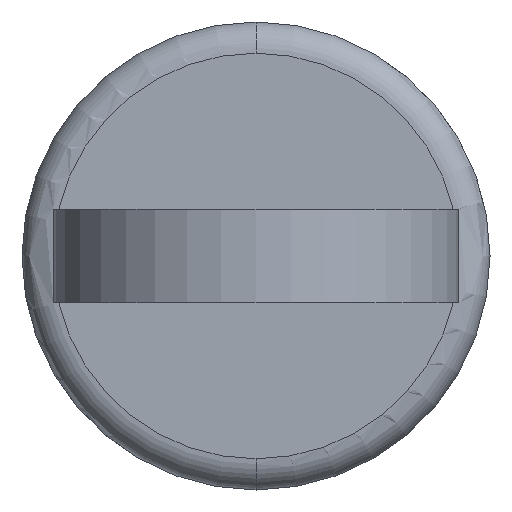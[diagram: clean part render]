
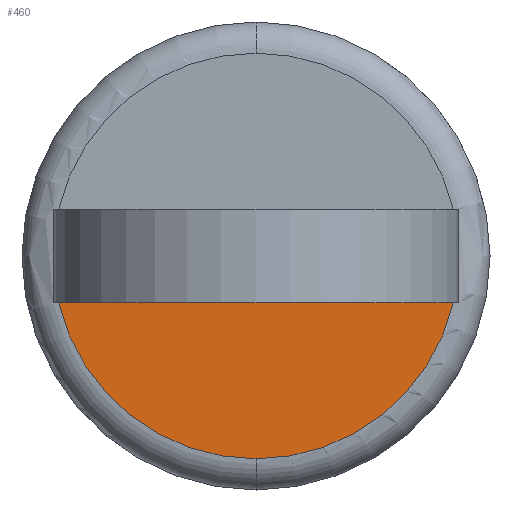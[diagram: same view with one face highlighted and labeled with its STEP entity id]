
A CAD part, front view. The second image highlights one B-rep face of the part: STEP entity #460.
In plain terms, the highlighted planar face has unit normal (0, -1, 0).
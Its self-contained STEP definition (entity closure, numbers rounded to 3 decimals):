
#13 = EDGE_CURVE ( 'NONE', #768, #365, #210, .T. ) ;
#29 = DIRECTION ( 'NONE',  ( -1., 0., 0. ) ) ;
#82 = CARTESIAN_POINT ( 'NONE',  ( -6.325, 11., -1.5 ) ) ;
#210 = CIRCLE ( 'NONE', #840, 6.5 ) ;
#218 = DIRECTION ( 'NONE',  ( 0., 0., 1. ) ) ;
#335 = CIRCLE ( 'NONE', #728, 6.5 ) ;
#365 = VERTEX_POINT ( 'NONE', #674 ) ;
#391 = ORIENTED_EDGE ( 'NONE', *, *, #719, .T. ) ;
#426 = ORIENTED_EDGE ( 'NONE', *, *, #13, .T. ) ;
#460 = ADVANCED_FACE ( 'NONE', ( #711 ), #701, .F. ) ;
#494 = CARTESIAN_POINT ( 'NONE',  ( 0., 11., 0. ) ) ;
#511 = CARTESIAN_POINT ( 'NONE',  ( 0., 11., 0. ) ) ;
#546 = LINE ( 'NONE', #577, #663 ) ;
#573 = EDGE_CURVE ( 'NONE', #365, #966, #546, .T. ) ;
#577 = CARTESIAN_POINT ( 'NONE',  ( -6.5, 11., -1.5 ) ) ;
#663 = VECTOR ( 'NONE', #29, 1000. ) ;
#674 = CARTESIAN_POINT ( 'NONE',  ( 6.325, 11., -1.5 ) ) ;
#701 = PLANE ( 'NONE',  #1130 ) ;
#711 = FACE_OUTER_BOUND ( 'NONE', #1198, .T. ) ;
#719 = EDGE_CURVE ( 'NONE', #966, #768, #335, .T. ) ;
#728 = AXIS2_PLACEMENT_3D ( 'NONE', #494, #1141, #1144 ) ;
#768 = VERTEX_POINT ( 'NONE', #788 ) ;
#776 = CARTESIAN_POINT ( 'NONE',  ( 0., 11., 0. ) ) ;
#781 = DIRECTION ( 'NONE',  ( 0., -1., 0. ) ) ;
#788 = CARTESIAN_POINT ( 'NONE',  ( 0., 11., -6.5 ) ) ;
#794 = DIRECTION ( 'NONE',  ( 0., 0., 1. ) ) ;
#840 = AXIS2_PLACEMENT_3D ( 'NONE', #511, #781, #218 ) ;
#930 = ORIENTED_EDGE ( 'NONE', *, *, #573, .T. ) ;
#966 = VERTEX_POINT ( 'NONE', #82 ) ;
#1130 = AXIS2_PLACEMENT_3D ( 'NONE', #776, #1164, #794 ) ;
#1141 = DIRECTION ( 'NONE',  ( 0., -1., 0. ) ) ;
#1144 = DIRECTION ( 'NONE',  ( 0., 0., 1. ) ) ;
#1164 = DIRECTION ( 'NONE',  ( 0., 1., 0. ) ) ;
#1198 = EDGE_LOOP ( 'NONE', ( #930, #391, #426 ) ) ;
